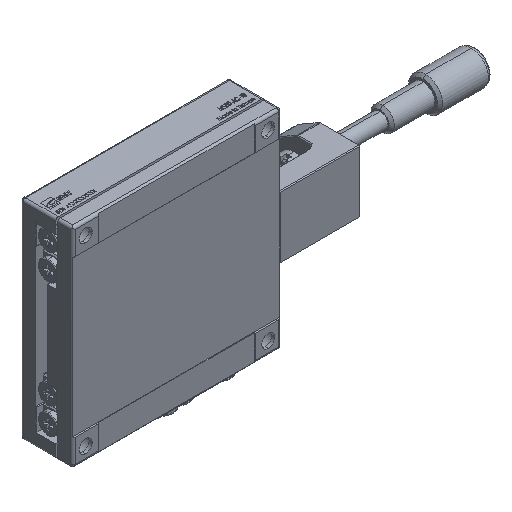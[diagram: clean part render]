
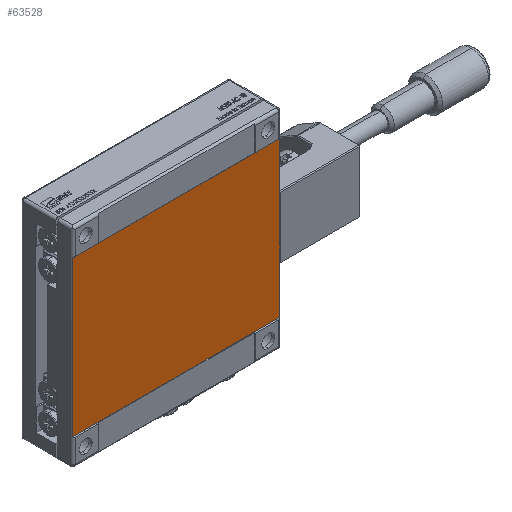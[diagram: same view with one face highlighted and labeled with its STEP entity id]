
A CAD part, isometric view. The second image highlights one B-rep face of the part: STEP entity #63528.
In plain terms, the highlighted planar face has unit normal (0, -1, 0).
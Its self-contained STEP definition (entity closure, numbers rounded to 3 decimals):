
#2916 = DIRECTION ( 'NONE',  ( 0., 0., -1. ) ) ;
#3810 = CARTESIAN_POINT ( 'NONE',  ( 35.024, -6.46, -29.7 ) ) ;
#6020 = EDGE_CURVE ( 'NONE', #78784, #51595, #66414, .T. ) ;
#14484 = CARTESIAN_POINT ( 'NONE',  ( 35.31, -6.46, -29.7 ) ) ;
#18117 = ORIENTED_EDGE ( 'NONE', *, *, #6020, .T. ) ;
#19501 = VECTOR ( 'NONE', #88720, 1000. ) ;
#20420 = ORIENTED_EDGE ( 'NONE', *, *, #76209, .T. ) ;
#23345 = CARTESIAN_POINT ( 'NONE',  ( 35.31, -6.46, 29.7 ) ) ;
#24219 = DIRECTION ( 'NONE',  ( -1., 0., 0. ) ) ;
#24277 = PLANE ( 'NONE',  #59290 ) ;
#25546 = EDGE_LOOP ( 'NONE', ( #29848, #20420, #18117, #31237 ) ) ;
#29051 = DIRECTION ( 'NONE',  ( -1., 0., 0. ) ) ;
#29848 = ORIENTED_EDGE ( 'NONE', *, *, #72717, .F. ) ;
#30886 = LINE ( 'NONE', #89087, #66859 ) ;
#31237 = ORIENTED_EDGE ( 'NONE', *, *, #38464, .T. ) ;
#31598 = DIRECTION ( 'NONE',  ( 0., 1., 0. ) ) ;
#36894 = FACE_OUTER_BOUND ( 'NONE', #25546, .T. ) ;
#38464 = EDGE_CURVE ( 'NONE', #51595, #62064, #30886, .T. ) ;
#38725 = LINE ( 'NONE', #52906, #19501 ) ;
#51595 = VERTEX_POINT ( 'NONE', #65604 ) ;
#52906 = CARTESIAN_POINT ( 'NONE',  ( 35.024, -6.46, -29.7 ) ) ;
#54663 = VECTOR ( 'NONE', #29051, 1000. ) ;
#59290 = AXIS2_PLACEMENT_3D ( 'NONE', #23345, #31598, #81888 ) ;
#62064 = VERTEX_POINT ( 'NONE', #79951 ) ;
#63528 = ADVANCED_FACE ( 'NONE', ( #36894 ), #24277, .F. ) ;
#65333 = VERTEX_POINT ( 'NONE', #3810 ) ;
#65604 = CARTESIAN_POINT ( 'NONE',  ( -44.404, -6.46, 29.7 ) ) ;
#66414 = LINE ( 'NONE', #67709, #68698 ) ;
#66859 = VECTOR ( 'NONE', #2916, 1000. ) ;
#67709 = CARTESIAN_POINT ( 'NONE',  ( 35.31, -6.46, 29.7 ) ) ;
#68698 = VECTOR ( 'NONE', #24219, 1000. ) ;
#72717 = EDGE_CURVE ( 'NONE', #65333, #62064, #73808, .T. ) ;
#73808 = LINE ( 'NONE', #14484, #54663 ) ;
#76209 = EDGE_CURVE ( 'NONE', #65333, #78784, #38725, .T. ) ;
#78784 = VERTEX_POINT ( 'NONE', #85089 ) ;
#79951 = CARTESIAN_POINT ( 'NONE',  ( -44.404, -6.46, -29.7 ) ) ;
#81888 = DIRECTION ( 'NONE',  ( 0., 0., 1. ) ) ;
#85089 = CARTESIAN_POINT ( 'NONE',  ( 35.024, -6.46, 29.7 ) ) ;
#88720 = DIRECTION ( 'NONE',  ( 0., 0., 1. ) ) ;
#89087 = CARTESIAN_POINT ( 'NONE',  ( -44.404, -6.46, 29.7 ) ) ;
